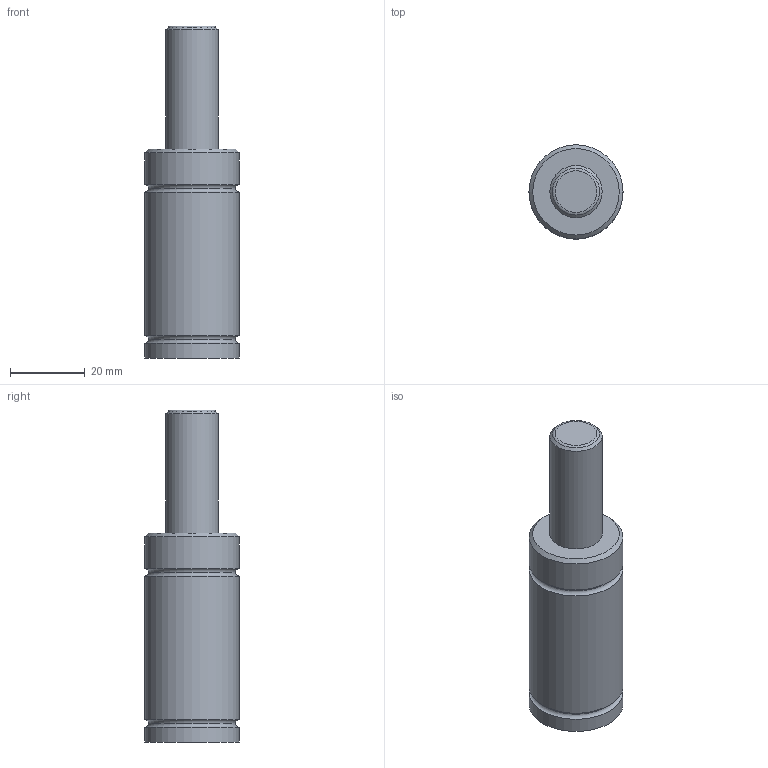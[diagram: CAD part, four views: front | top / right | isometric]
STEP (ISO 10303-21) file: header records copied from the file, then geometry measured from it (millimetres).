
FILE_DESCRIPTION(('FreeCAD Model'),'2;1');
FILE_NAME('Open CASCADE Shape Model','2024-11-11T17:17:12',('Author'),( ''),'Open CASCADE STEP processor 7.6','FreeCAD','Unknown');
FILE_SCHEMA(('AUTOMOTIVE_DESIGN { 1 0 10303 214 1 1 1 1 }'));
Length unit declared in the file: millimetre
Products named in the file (5): MICRO25x19_2; Part003; Cut; Part001; Fillet
Assembly tree (4 placements, depth 3):
  MICRO25x19_2
    Part003
      Cut
    Part001
      Fillet
Bounding box: 25.2 x 25.2 x 89 mm (x, y, z)
Volume: 32709.8 mm3; surface area: 7269.4 mm2
Topology: 2 solids, 2 shells, 15 faces, 24 edges, 13 vertices
Faces by surface type: torus 5, cylinder 4, plane 4, cone 2
Full cylindrical faces by diameter (mm): 14 x1, 25.2 x3
Entity records: 446 total; most frequent: DIRECTION 82, CARTESIAN_POINT 57, ORIENTED_EDGE 48, AXIS2_PLACEMENT_3D 38, EDGE_CURVE 24, CIRCLE 18, ADVANCED_FACE 15, FACE_BOUND 15
